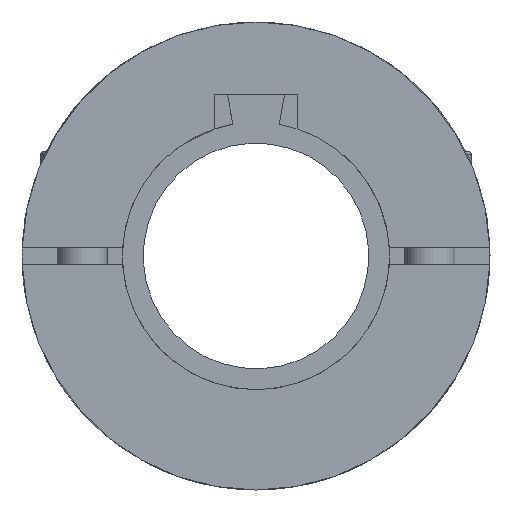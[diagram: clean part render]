
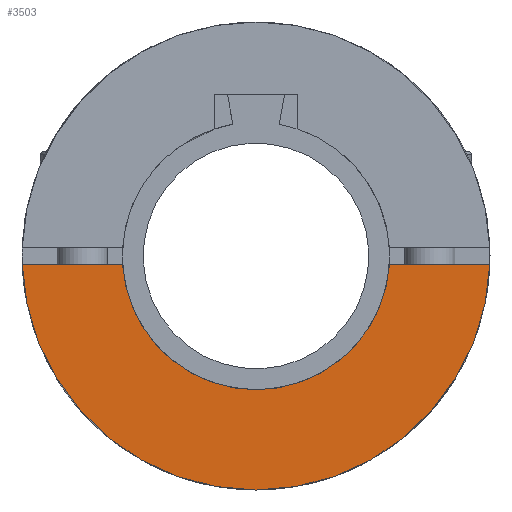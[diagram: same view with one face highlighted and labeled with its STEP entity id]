
A CAD part, left-side view. The second image highlights one B-rep face of the part: STEP entity #3503.
In plain terms, the highlighted planar face has unit normal (-1, 0, 0).
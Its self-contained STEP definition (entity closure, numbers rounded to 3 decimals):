
#170=PLANE('',#3953);
#369=FACE_OUTER_BOUND('',#579,.T.);
#579=EDGE_LOOP('',(#3170,#3171,#3172,#3173));
#851=LINE('',#5980,#1162);
#885=LINE('',#6311,#1196);
#1162=VECTOR('',#4759,1000.);
#1196=VECTOR('',#4933,1000.);
#1367=CIRCLE('',#3868,16.);
#1420=CIRCLE('',#3948,28.);
#1672=VERTEX_POINT('',#5928);
#1673=VERTEX_POINT('',#5929);
#1689=VERTEX_POINT('',#5978);
#1756=VERTEX_POINT('',#6304);
#2129=EDGE_CURVE('',#1672,#1673,#1367,.T.);
#2155=EDGE_CURVE('',#1689,#1673,#851,.T.);
#2243=EDGE_CURVE('',#1689,#1756,#1420,.T.);
#2245=EDGE_CURVE('',#1672,#1756,#885,.T.);
#3170=ORIENTED_EDGE('',*,*,#2129,.T.);
#3171=ORIENTED_EDGE('',*,*,#2155,.F.);
#3172=ORIENTED_EDGE('',*,*,#2243,.T.);
#3173=ORIENTED_EDGE('',*,*,#2245,.F.);
#3503=ADVANCED_FACE('',(#369),#170,.F.);
#3868=AXIS2_PLACEMENT_3D('',#5930,#4711,#4712);
#3948=AXIS2_PLACEMENT_3D('',#6306,#4924,#4925);
#3953=AXIS2_PLACEMENT_3D('',#6315,#4938,#4939);
#4711=DIRECTION('center_axis',(1.,0.,0.));
#4712=DIRECTION('ref_axis',(0.,0.,1.));
#4759=DIRECTION('',(0.,-1.,0.));
#4924=DIRECTION('center_axis',(-1.,0.,0.));
#4925=DIRECTION('ref_axis',(0.,-1.,0.));
#4933=DIRECTION('',(0.,-1.,0.));
#4938=DIRECTION('center_axis',(1.,0.,0.));
#4939=DIRECTION('ref_axis',(0.,0.,-1.));
#5928=CARTESIAN_POINT('',(0.,-15.969,-1.));
#5929=CARTESIAN_POINT('',(0.,15.969,-1.));
#5930=CARTESIAN_POINT('Origin',(0.,0.,0.));
#5978=CARTESIAN_POINT('',(0.,27.982,-1.));
#5980=CARTESIAN_POINT('',(0.,33.003,-1.));
#6304=CARTESIAN_POINT('',(0.,-27.982,-1.));
#6306=CARTESIAN_POINT('Origin',(0.,0.,0.));
#6311=CARTESIAN_POINT('',(0.,33.003,-1.));
#6315=CARTESIAN_POINT('Origin',(0.,0.,28.));
